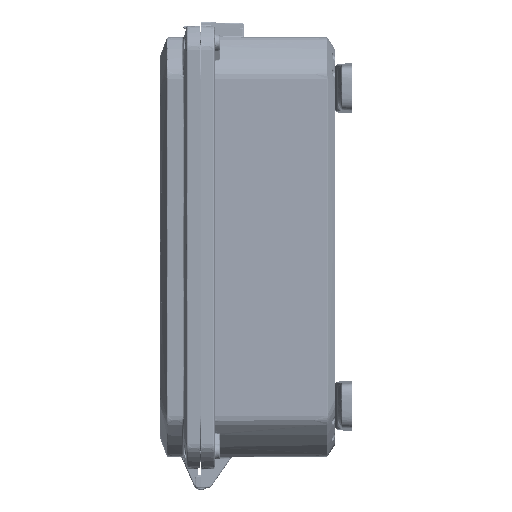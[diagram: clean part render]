
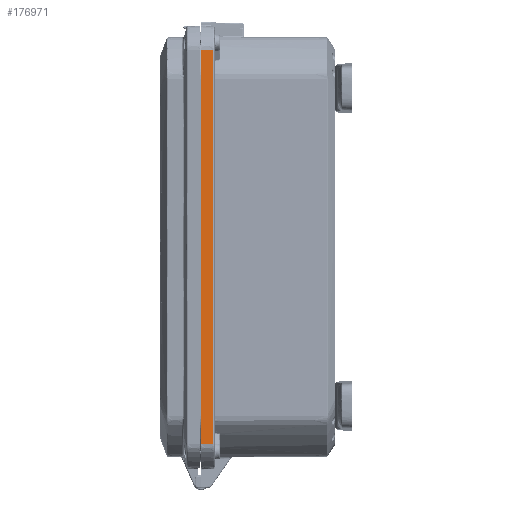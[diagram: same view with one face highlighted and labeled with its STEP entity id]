
A CAD part, left-side view. The second image highlights one B-rep face of the part: STEP entity #176971.
In plain terms, the highlighted planar face has unit normal (-0.999, -0.035, 0).
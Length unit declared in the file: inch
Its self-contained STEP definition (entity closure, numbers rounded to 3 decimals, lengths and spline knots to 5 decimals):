
#9133 = ORIENTED_EDGE ( 'NONE', *, *, #291133, .T. ) ;
#10318 = DIRECTION ( 'NONE',  ( 0.035, -0.999, 0. ) ) ;
#13393 = LINE ( 'NONE', #153673, #120225 ) ;
#32723 = CARTESIAN_POINT ( 'NONE',  ( -7.62, 0., 5.89046 ) ) ;
#33682 = CARTESIAN_POINT ( 'NONE',  ( -7.60772, -0.35174, 5.89046 ) ) ;
#72098 = DIRECTION ( 'NONE',  ( 0., 0., 1. ) ) ;
#74809 = LINE ( 'NONE', #96907, #134239 ) ;
#76268 = PLANE ( 'NONE',  #294702 ) ;
#88717 = LINE ( 'NONE', #33682, #289874 ) ;
#96907 = CARTESIAN_POINT ( 'NONE',  ( -7.62, 0., -5.89046 ) ) ;
#105239 = EDGE_CURVE ( 'NONE', #149551, #149415, #74809, .T. ) ;
#110667 = ORIENTED_EDGE ( 'NONE', *, *, #136943, .F. ) ;
#120225 = VECTOR ( 'NONE', #10318, 39.37008 ) ;
#134239 = VECTOR ( 'NONE', #169345, 39.37008 ) ;
#136943 = EDGE_CURVE ( 'NONE', #149551, #262884, #172910, .T. ) ;
#137961 = VECTOR ( 'NONE', #72098, 39.37008 ) ;
#147167 = DIRECTION ( 'NONE',  ( -0.999, -0.035, 0. ) ) ;
#149415 = VERTEX_POINT ( 'NONE', #247273 ) ;
#149551 = VERTEX_POINT ( 'NONE', #181143 ) ;
#153673 = CARTESIAN_POINT ( 'NONE',  ( -7.62, 0., 5.89046 ) ) ;
#157884 = ORIENTED_EDGE ( 'NONE', *, *, #295376, .F. ) ;
#167697 = FACE_OUTER_BOUND ( 'NONE', #231597, .T. ) ;
#169345 = DIRECTION ( 'NONE',  ( 0.035, -0.999, 0. ) ) ;
#169769 = CARTESIAN_POINT ( 'NONE',  ( -7.62, 0., 6.3 ) ) ;
#172910 = LINE ( 'NONE', #169769, #137961 ) ;
#176971 = ADVANCED_FACE ( 'NONE', ( #167697 ), #76268, .T. ) ;
#181143 = CARTESIAN_POINT ( 'NONE',  ( -7.62, 0., -5.89046 ) ) ;
#184616 = VERTEX_POINT ( 'NONE', #213226 ) ;
#213226 = CARTESIAN_POINT ( 'NONE',  ( -7.60772, -0.35174, 5.89046 ) ) ;
#230449 = DIRECTION ( 'NONE',  ( 0., 0., 1. ) ) ;
#231597 = EDGE_LOOP ( 'NONE', ( #9133, #157884, #110667, #270594 ) ) ;
#247273 = CARTESIAN_POINT ( 'NONE',  ( -7.60772, -0.35174, -5.89046 ) ) ;
#262884 = VERTEX_POINT ( 'NONE', #32723 ) ;
#263669 = DIRECTION ( 'NONE',  ( 0.035, -0.999, 0. ) ) ;
#270594 = ORIENTED_EDGE ( 'NONE', *, *, #105239, .T. ) ;
#289874 = VECTOR ( 'NONE', #230449, 39.37008 ) ;
#291133 = EDGE_CURVE ( 'NONE', #149415, #184616, #88717, .T. ) ;
#294702 = AXIS2_PLACEMENT_3D ( 'NONE', #310866, #147167, #263669 ) ;
#295376 = EDGE_CURVE ( 'NONE', #262884, #184616, #13393, .T. ) ;
#310866 = CARTESIAN_POINT ( 'NONE',  ( -7.62, 0., 6.3 ) ) ;
